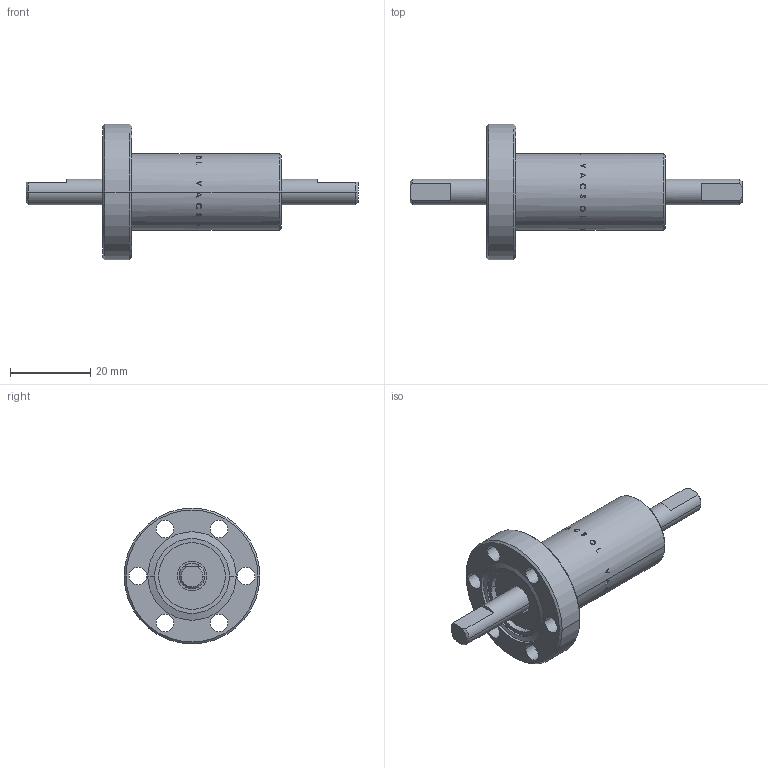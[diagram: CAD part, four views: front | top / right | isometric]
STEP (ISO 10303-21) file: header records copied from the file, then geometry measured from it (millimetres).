
FILE_DESCRIPTION (( 'STEP AP203' ), '1' );
FILE_NAME ('P63020.STEP', '2010-12-04T02:51:18', ( 'user' ), ( '' ), 'SwSTEP 2.0', 'SolidWorks 2007', '' );
FILE_SCHEMA (( 'CONFIG_CONTROL_DESIGN' ));
Length unit declared in the file: millimetre
Products named in the file (1): P63020
Bounding box: 82.6 x 33.8 x 33.8 mm (x, y, z)
Volume: 16964 mm3; surface area: 6874.8 mm2
Topology: 1 solids, 1 shells, 270 faces, 692 edges, 456 vertices
Faces by surface type: bspline 177, cylinder 59, plane 18, cone 16
Entity records: 16125 total; most frequent: CARTESIAN_POINT 10978, ORIENTED_EDGE 1384, EDGE_CURVE 692, B_SPLINE_CURVE_WITH_KNOTS 542, VERTEX_POINT 456, DIRECTION 430, EDGE_LOOP 314, FACE_OUTER_BOUND 270
